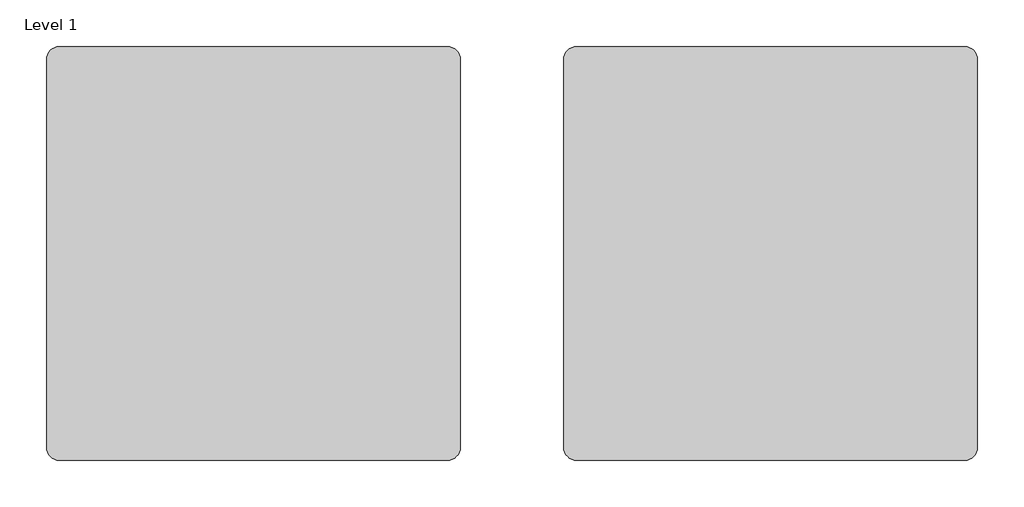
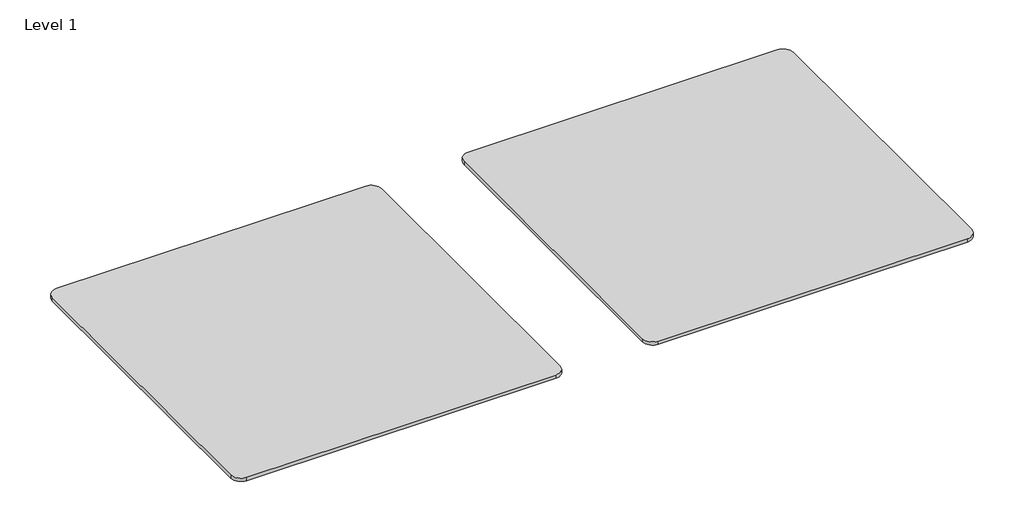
# One storey: 2 proxies.
"""IFC4 building model written with IfcOpenShell, lengths in millimetres."""

from ifc_helpers import new_model, si_unit, origin, place, context, project, spatial, transform, mapped, element, save
from components import materialsample_type_1_aebe469f

model = new_model("IFC4")

# Units and contexts
model_context = context("Model", 3, world=origin())
ifc_project = project(units=[si_unit("LENGTHUNIT", "METRE", prefix="MILLI")], contexts=[model_context])

# Site, building, storey
site = spatial("IfcSite", under=ifc_project)
building = spatial("IfcBuilding", under=site)
storey = spatial("IfcBuildingStorey", under=building, Name="Level 1", Elevation=0.0)

# Proxies
placement = place(None, origin())
materialsample_type_1_shape = materialsample_type_1_aebe469f(model_context)
element("IfcBuildingElementProxy", 1, Name="MaterialSample : Type 1", ObjectType="MaterialSample : Type 1", at=placement, inside=storey, context=model_context, shape_type="MappedRepresentation", body=[
    mapped(materialsample_type_1_shape, transform((1524.0, 0.0, 0.0), x_axis=(1.0, 0.0, 0.0), y_axis=(0.0, 1.0, 0.0), z_axis=(0.0, 0.0, 1.0))),
])
element("IfcBuildingElementProxy", 2, Name="MaterialSample : Type 1", ObjectType="MaterialSample : Type 1", at=placement, inside=storey, context=model_context, shape_type="MappedRepresentation", body=[
    mapped(materialsample_type_1_shape, transform((4572.0, 0.0, 0.0), x_axis=(1.0, 0.0, 0.0), y_axis=(0.0, 1.0, 0.0), z_axis=(0.0, 0.0, 1.0))),
])

save(model, "model.ifc")
